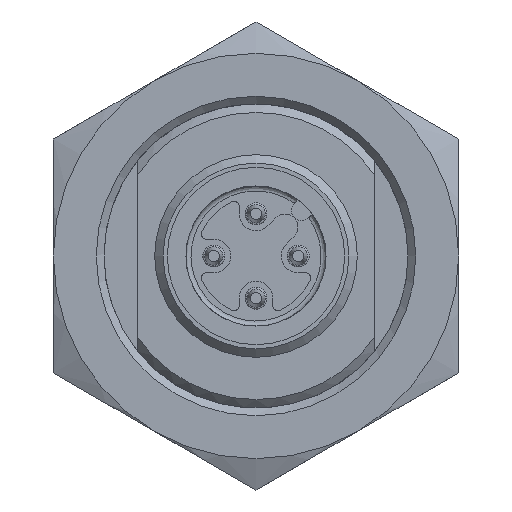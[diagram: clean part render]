
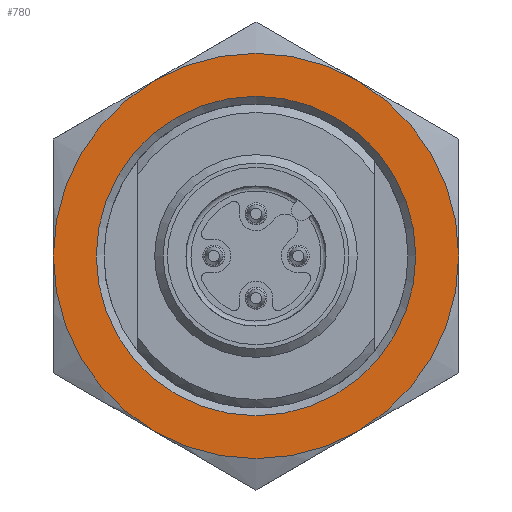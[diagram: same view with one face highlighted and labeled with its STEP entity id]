
A CAD part, front view. The second image highlights one B-rep face of the part: STEP entity #780.
In plain terms, the highlighted planar face has unit normal (0, -1, 0).
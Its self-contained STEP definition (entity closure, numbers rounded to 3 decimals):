
#73=CARTESIAN_POINT('',(-9.005,7.95,-9.46));
#74=VERTEX_POINT('',#73);
#75=CARTESIAN_POINT('',(-9.005,7.95,0.0));
#76=DIRECTION('',(0.0,-1.0,0.0));
#77=DIRECTION('',(0.0,0.0,1.0));
#78=AXIS2_PLACEMENT_3D('',#75,#76,#77);
#79=CIRCLE('',#78,9.46);
#80=EDGE_CURVE('',#74,#74,#79,.T.);
#131=CARTESIAN_POINT('',(-21.005,7.95,0.));
#132=VERTEX_POINT('',#131);
#146=CARTESIAN_POINT('',(-15.005,7.95,-10.392));
#147=VERTEX_POINT('',#146);
#161=CARTESIAN_POINT('',(-9.005,7.95,0.));
#162=DIRECTION('',(0.0,-1.0,0.0));
#163=DIRECTION('',(0.0,0.0,-1.0));
#164=AXIS2_PLACEMENT_3D('',#161,#162,#163);
#165=CIRCLE('',#164,12.);
#166=EDGE_CURVE('',#132,#147,#165,.T.);
#178=CARTESIAN_POINT('',(-15.005,7.95,10.392));
#179=VERTEX_POINT('',#178);
#206=CARTESIAN_POINT('',(-9.005,7.95,0.));
#207=DIRECTION('',(0.0,-1.0,0.0));
#208=DIRECTION('',(0.0,0.0,-1.0));
#209=AXIS2_PLACEMENT_3D('',#206,#207,#208);
#210=CIRCLE('',#209,12.);
#211=EDGE_CURVE('',#179,#132,#210,.T.);
#223=CARTESIAN_POINT('',(-3.005,7.95,10.392));
#224=VERTEX_POINT('',#223);
#251=CARTESIAN_POINT('',(-9.005,7.95,0.));
#252=DIRECTION('',(0.0,-1.0,0.0));
#253=DIRECTION('',(0.0,0.0,-1.0));
#254=AXIS2_PLACEMENT_3D('',#251,#252,#253);
#255=CIRCLE('',#254,12.);
#256=EDGE_CURVE('',#224,#179,#255,.T.);
#268=CARTESIAN_POINT('',(2.995,7.95,0.));
#269=VERTEX_POINT('',#268);
#296=CARTESIAN_POINT('',(-9.005,7.95,0.));
#297=DIRECTION('',(0.0,-1.0,0.0));
#298=DIRECTION('',(0.0,0.0,-1.0));
#299=AXIS2_PLACEMENT_3D('',#296,#297,#298);
#300=CIRCLE('',#299,12.);
#301=EDGE_CURVE('',#269,#224,#300,.T.);
#326=CARTESIAN_POINT('',(-3.005,7.95,-10.392));
#327=VERTEX_POINT('',#326);
#328=CARTESIAN_POINT('',(-9.005,7.95,0.));
#329=DIRECTION('',(0.0,-1.0,0.0));
#330=DIRECTION('',(0.0,0.0,-1.0));
#331=AXIS2_PLACEMENT_3D('',#328,#329,#330);
#332=CIRCLE('',#331,12.);
#333=EDGE_CURVE('',#327,#269,#332,.T.);
#371=CARTESIAN_POINT('',(-9.005,7.95,0.));
#372=DIRECTION('',(0.0,-1.0,0.0));
#373=DIRECTION('',(0.0,0.0,-1.0));
#374=AXIS2_PLACEMENT_3D('',#371,#372,#373);
#375=CIRCLE('',#374,12.);
#376=EDGE_CURVE('',#147,#327,#375,.T.);
#764=CARTESIAN_POINT('',(-9.005,7.95,0.));
#765=DIRECTION('',(0.0,1.0,0.0));
#766=DIRECTION('',(0.0,0.0,-1.0));
#767=AXIS2_PLACEMENT_3D('',#764,#765,#766);
#768=PLANE('',#767);
#769=ORIENTED_EDGE('',*,*,#376,.T.);
#770=ORIENTED_EDGE('',*,*,#333,.T.);
#771=ORIENTED_EDGE('',*,*,#301,.T.);
#772=ORIENTED_EDGE('',*,*,#256,.T.);
#773=ORIENTED_EDGE('',*,*,#211,.T.);
#774=ORIENTED_EDGE('',*,*,#166,.T.);
#775=EDGE_LOOP('',(#769,#770,#771,#772,#773,#774));
#776=FACE_OUTER_BOUND('',#775,.T.);
#777=ORIENTED_EDGE('',*,*,#80,.F.);
#778=EDGE_LOOP('',(#777));
#779=FACE_BOUND('',#778,.T.);
#780=ADVANCED_FACE('',(#776,#779),#768,.F.);
